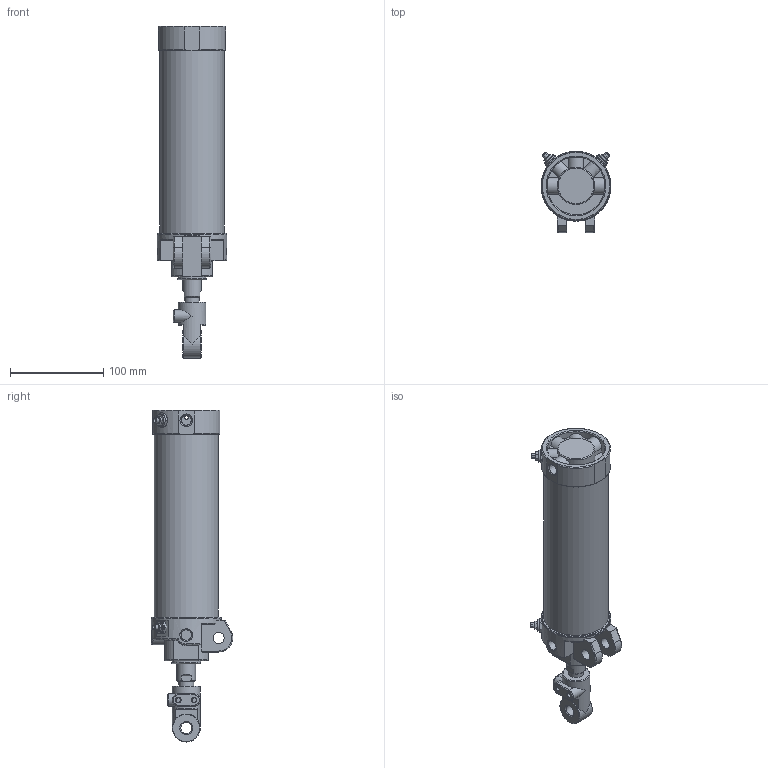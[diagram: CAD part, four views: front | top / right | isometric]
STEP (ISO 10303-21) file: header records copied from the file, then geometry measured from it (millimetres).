
FILE_DESCRIPTION((''),'2;1');
FILE_NAME('I:\3D電子目錄\氣缸\DCK\DCK\DCK-1B-63x150-I.stp','2008-02-26T15:27:27',('Administrator'),(''),'Autodesk Inventor 11','Autodesk Inventor 11','');
FILE_SCHEMA(('AUTOMOTIVE_DESIGN { 1 0 10303 214 1 1 1 1 }'));
Length unit declared in the file: millimetre
Products named in the file (6): DCK-1B-63-I; 緩衝針; 緩衝針-1; 緩衝針-201; 緩衝針-3
Assembly tree (8 placements, depth 3):
  DCK-1B-63-I
    DCK-1B-63-I
    緩衝針  x4
      緩衝針-1
      緩衝針-201
      緩衝針-3
Bounding box: 75 x 87.29 x 356 mm (x, y, z)
Volume: 391478.2 mm3; surface area: 164735.2 mm2
Topology: 17 solids, 17 shells, 639 faces, 1407 edges, 875 vertices
Faces by surface type: plane 233, cylinder 179, cone 139, torus 49, bspline 39
Full cylindrical faces by diameter (mm): 2 x1, 3 x2, 3.8 x2, 4 x6, 4.6 x4, 5 x8, 5.1 x4, 5.2 x12, 5.5 x4, 7 x1, 7.25 x1, 7.9 x4, 8 x2, 11.3 x3, 12 x3, 12.8 x4, 16 x3, 20 x1, 21 x1, 22 x2, 23 x1, 24.7 x1, 26 x1, 27 x1, 28 x1, 29 x1, 30 x2, 31 x1, 33 x1, 62 x1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
Entity records: 13918 total; most frequent: CARTESIAN_POINT 5752, DIRECTION 1661, ORIENTED_EDGE 1492, EDGE_CURVE 746, AXIS2_PLACEMENT_3D 726, EDGE_LOOP 584, VERTEX_POINT 538, FACE_OUTER_BOUND 390
